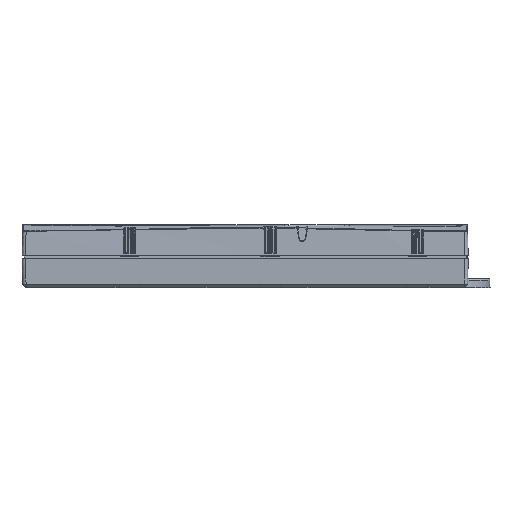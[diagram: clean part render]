
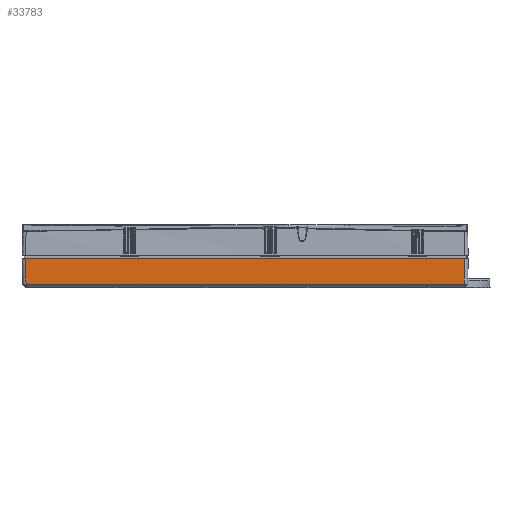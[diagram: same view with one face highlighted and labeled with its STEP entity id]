
A CAD part, top view. The second image highlights one B-rep face of the part: STEP entity #33783.
In plain terms, the highlighted planar face has unit normal (0, -0.026, 1).
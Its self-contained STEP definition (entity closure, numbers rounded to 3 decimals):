
#3459 = LINE ( 'NONE', #126751, #177403 ) ;
#8412 = PLANE ( 'NONE',  #80375 ) ;
#21975 = VERTEX_POINT ( 'NONE', #175157 ) ;
#23029 = DIRECTION ( 'NONE',  ( 0., -1., -0.026 ) ) ;
#23039 = CARTESIAN_POINT ( 'NONE',  ( -141.714, 11.8, 51.453 ) ) ;
#28515 = DIRECTION ( 'NONE',  ( 0.026, 0.999, 0.026 ) ) ;
#32614 = VERTEX_POINT ( 'NONE', #85781 ) ;
#33783 = ADVANCED_FACE ( 'NONE', ( #108873 ), #8412, .T. ) ;
#39855 = DIRECTION ( 'NONE',  ( -1., 0., 0. ) ) ;
#48241 = EDGE_CURVE ( 'NONE', #163547, #32614, #131720, .T. ) ;
#48732 = DIRECTION ( 'NONE',  ( 0.026, -0.999, -0.026 ) ) ;
#55436 = CARTESIAN_POINT ( 'NONE',  ( -11.78, -3.549, 51.051 ) ) ;
#55706 = EDGE_CURVE ( 'NONE', #32614, #21975, #113609, .T. ) ;
#72200 = ORIENTED_EDGE ( 'NONE', *, *, #55706, .T. ) ;
#75144 = EDGE_LOOP ( 'NONE', ( #130264, #72200, #89607, #162530 ) ) ;
#80375 = AXIS2_PLACEMENT_3D ( 'NONE', #107394, #174767, #23029 ) ;
#83355 = DIRECTION ( 'NONE',  ( 1., 0., 0. ) ) ;
#85781 = CARTESIAN_POINT ( 'NONE',  ( -141.312, -3.549, 51.051 ) ) ;
#89607 = ORIENTED_EDGE ( 'NONE', *, *, #97960, .T. ) ;
#97960 = EDGE_CURVE ( 'NONE', #21975, #107039, #3459, .T. ) ;
#104961 = VECTOR ( 'NONE', #83355, 1000. ) ;
#107039 = VERTEX_POINT ( 'NONE', #120559 ) ;
#107394 = CARTESIAN_POINT ( 'NONE',  ( -143.273, 11.8, 51.453 ) ) ;
#108873 = FACE_OUTER_BOUND ( 'NONE', #75144, .T. ) ;
#109057 = CARTESIAN_POINT ( 'NONE',  ( -11.78, 11.8, 51.453 ) ) ;
#113609 = LINE ( 'NONE', #55436, #104961 ) ;
#118505 = CARTESIAN_POINT ( 'NONE',  ( -141.714, 11.8, 51.453 ) ) ;
#120559 = CARTESIAN_POINT ( 'NONE',  ( 118.154, 11.8, 51.453 ) ) ;
#120754 = VECTOR ( 'NONE', #48732, 1000. ) ;
#126751 = CARTESIAN_POINT ( 'NONE',  ( 117.752, -3.549, 51.051 ) ) ;
#130264 = ORIENTED_EDGE ( 'NONE', *, *, #48241, .T. ) ;
#131720 = LINE ( 'NONE', #118505, #120754 ) ;
#162530 = ORIENTED_EDGE ( 'NONE', *, *, #175654, .T. ) ;
#163547 = VERTEX_POINT ( 'NONE', #23039 ) ;
#174587 = LINE ( 'NONE', #109057, #176689 ) ;
#174767 = DIRECTION ( 'NONE',  ( 0., -0.026, 1. ) ) ;
#175157 = CARTESIAN_POINT ( 'NONE',  ( 117.752, -3.549, 51.051 ) ) ;
#175654 = EDGE_CURVE ( 'NONE', #107039, #163547, #174587, .T. ) ;
#176689 = VECTOR ( 'NONE', #39855, 1000. ) ;
#177403 = VECTOR ( 'NONE', #28515, 1000. ) ;
